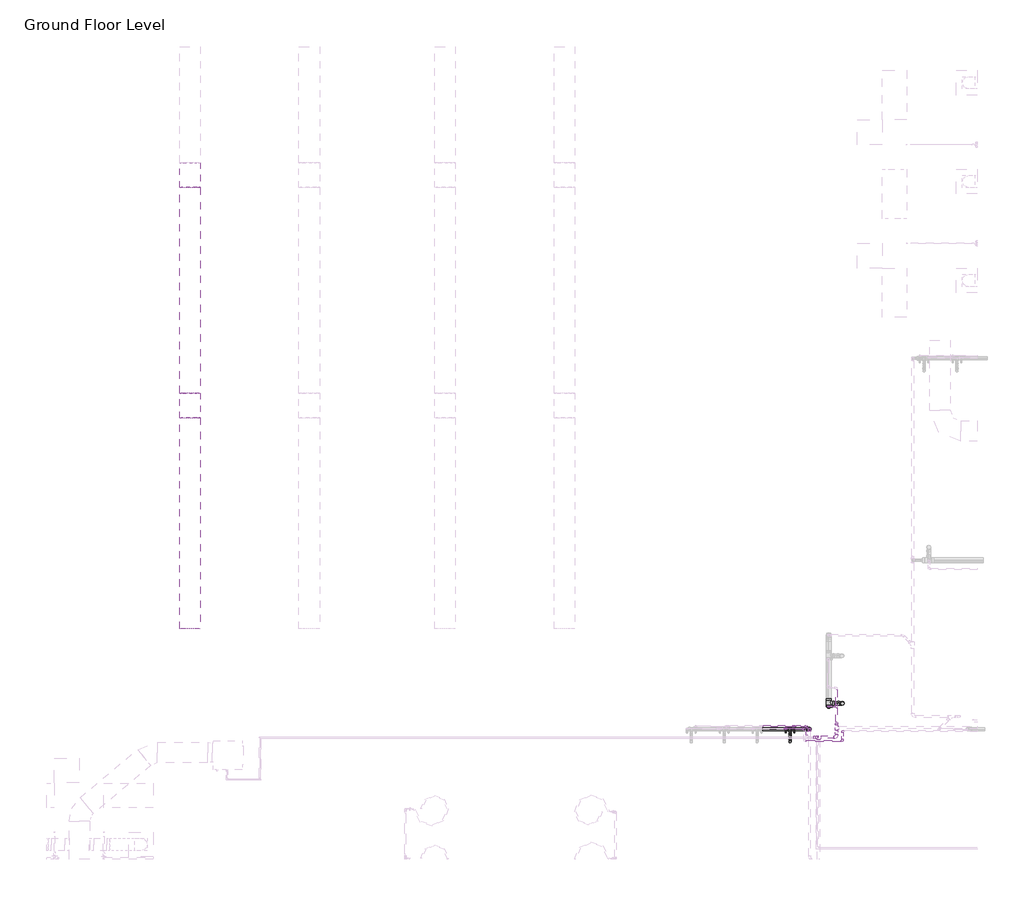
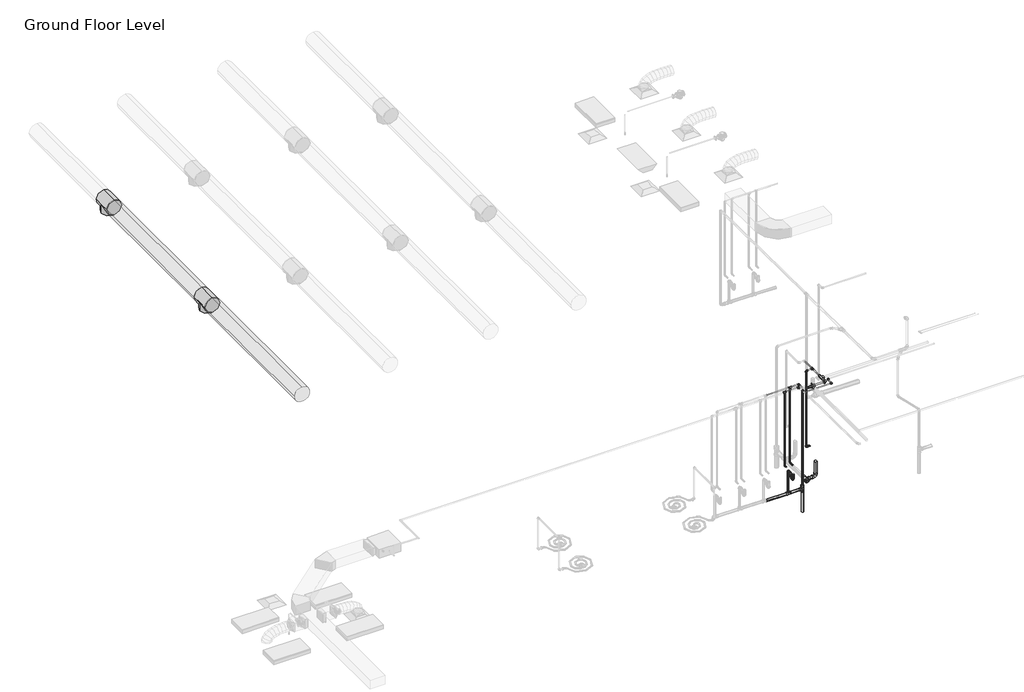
# One storey, part 8 of 74: 31 pipe fittings, 29 pipe segments, 2 duct fittings, 2 duct segments.
"""IFC4 building model written with IfcOpenShell, lengths in millimetres."""

from ifc_helpers import new_model, si_unit, point, frame, frame_2d, origin, place, context, project, spatial, circle_curve, trimmed, segment, composite_curve, outline, extrude, transform, mapped, element, save
from components import m_round_tee_standard_ed589d36, m_bend_pvc_sch_40_dwv_standard_a4b99d37, m_bend_pvc_sch_40_dwv_standard_1e7bdcc1, m_bend_pvc_sch_40_dwv_standard_776e50c4, m_bend_pvc_sch_40_dwv_standard_877aed9a, m_elbow_generic_standard_a088f956, m_elbow_generic_standard_2a704253, m_plug_pvc_sch_40_dwv_standard_6c40de1c, m_reducer_pvc_sch_40_dwv_standard_b84ad399, m_tee_reducing_sanitary_pvc_sch_40_dwv_standard_b49161a9, m_tee_reducing_sanitary_pvc_sch_40_dwv_standard_21d2848c, m_tee_reducing_sanitary_pvc_sch_40_dwv_standard_b574f8c1, standard_b266ab3f, standard_517a5a8d, standard_72b35c3b, standard_cd25fed3, standard_f1337950, standard_e954f56a, standard_57727813

model = new_model("IFC4")

# Units and contexts
model_context = context("Model", 3, world=origin())
ifc_project = project(units=[si_unit("LENGTHUNIT", "METRE", prefix="MILLI")], contexts=[model_context])

# Site, building, storey
site = spatial("IfcSite", under=ifc_project)
building = spatial("IfcBuilding", under=site)
storey = spatial("IfcBuildingStorey", under=building, Name="Ground Floor Level", Elevation=900.0)

# Duct fittings
placement = place(None, origin())
m_round_tee_standard_shape = m_round_tee_standard_ed589d36(model_context)
element("IfcDuctFitting", 1, ObjectType="M_Round Tee : Standard", at=placement, inside=storey, context=model_context, shape_type="MappedRepresentation", body=[
    mapped(m_round_tee_standard_shape, transform((-16150.3527512, -19404.784563, 7765.9063151), x_axis=(0.0, 0.9999999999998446, -5.576948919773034e-07), y_axis=(0.0, 5.576948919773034e-07, 0.9999999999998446), z_axis=(1.0, 0.0, 0.0))),
])
element("IfcDuctFitting", 2, ObjectType="M_Round Tee : Standard", at=placement, inside=storey, context=model_context, shape_type="MappedRepresentation", body=[
    mapped(m_round_tee_standard_shape, transform((-16150.3527512, -25004.784563, 7765.9094382), x_axis=(0.0, 0.9999999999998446, -5.576948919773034e-07), y_axis=(0.0, 5.576948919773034e-07, 0.9999999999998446), z_axis=(1.0, 0.0, 0.0))),
])

# Duct segments
element("IfcDuctSegment", 3, ObjectType="Tees", at=placement, inside=storey, context=model_context, shape_type="SweptSolid", body=[
    extrude(outline(composite_curve([segment(trimmed(circle_curve(frame_2d((7765.9092709, -16150.3527512)), 250.0), [point((7765.9092709, -15900.3527512))], [point((8015.9092709, -16150.3527512))], False, "CARTESIAN"), True, "CONTINUOUS"), segment(trimmed(circle_curve(frame_2d((7765.9092709, -16150.3527512)), 250.0), [point((8015.9092709, -16150.3527512))], [point((7765.9092709, -16400.3527512))], False, "CARTESIAN"), True, "CONTINUOUS"), segment(trimmed(circle_curve(frame_2d((7765.9092709, -16150.3527512)), 250.0), [point((7765.9092709, -16400.3527512))], [point((7515.9092709, -16150.3527512))], False, "CARTESIAN"), True, "CONTINUOUS"), segment(trimmed(circle_curve(frame_2d((7765.9092709, -16150.3527512)), 250.0), [point((7515.9092709, -16150.3527512))], [point((7765.9092709, -15900.3527512))], False, "CARTESIAN"), True, "CONTINUOUS")], self_intersect=False)), frame((0.0, -24704.784563, 0.0), z_axis=(0.0, 1.0, 0.0), x_axis=(0.0, 0.0, 1.0)), (0.0, 0.0, 1.0), 5000.0),
])
element("IfcDuctSegment", 4, ObjectType="Tees", at=placement, inside=storey, context=model_context, shape_type="SweptSolid", body=[
    extrude(outline(composite_curve([segment(trimmed(circle_curve(frame_2d((7765.9125, -16150.3527512)), 250.0), [point((7765.9125, -15900.3527512))], [point((8015.9125, -16150.3527512))], False, "CARTESIAN"), True, "CONTINUOUS"), segment(trimmed(circle_curve(frame_2d((7765.9125, -16150.3527512)), 250.0), [point((8015.9125, -16150.3527512))], [point((7765.9125, -16400.3527512))], False, "CARTESIAN"), True, "CONTINUOUS"), segment(trimmed(circle_curve(frame_2d((7765.9125, -16150.3527512)), 250.0), [point((7765.9125, -16400.3527512))], [point((7515.9125, -16150.3527512))], False, "CARTESIAN"), True, "CONTINUOUS"), segment(trimmed(circle_curve(frame_2d((7765.9125, -16150.3527512)), 250.0), [point((7515.9125, -16150.3527512))], [point((7765.9125, -15900.3527512))], False, "CARTESIAN"), True, "CONTINUOUS")], self_intersect=False)), frame((0.0, -30422.0587669, 0.0), z_axis=(0.0, 1.0, 0.0), x_axis=(0.0, 0.0, 1.0)), (0.0, 0.0, 1.0), 5117.2742039),
])

# Pipe fittings
m_bend_pvc_sch_40_dwv_standard_shape = m_bend_pvc_sch_40_dwv_standard_a4b99d37(model_context)
element("IfcPipeFitting", 5, ObjectType="M_Bend - PVC - Sch 40 - DWV : Standard", at=placement, inside=storey, context=model_context, shape_type="MappedRepresentation", body=[
    mapped(m_bend_pvc_sch_40_dwv_standard_shape, transform((-303.6900633, -32234.266625, 475.9254106), x_axis=(0.0, 0.0, -1.0), y_axis=(-1.0, 0.0, 0.0), z_axis=(0.0, 1.0, 0.0))),
])
m_bend_pvc_sch_40_dwv_standard_2_shape = m_bend_pvc_sch_40_dwv_standard_1e7bdcc1(model_context)
element("IfcPipeFitting", 6, ObjectType="M_Bend - PVC - Sch 40 - DWV : Standard", at=placement, inside=storey, context=model_context, shape_type="MappedRepresentation", body=[
    mapped(m_bend_pvc_sch_40_dwv_standard_2_shape, transform((-1573.215321, -32858.7119065, 1488.3035905), x_axis=(0.0, 0.9999500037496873, -0.009999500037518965), y_axis=(0.0, -0.009999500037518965, -0.9999500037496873), z_axis=(-1.0, 0.0, 0.0))),
])
element("IfcPipeFitting", 7, ObjectType="M_Bend - PVC - Sch 40 - DWV : Standard", at=placement, inside=storey, context=model_context, shape_type="MappedRepresentation", body=[
    mapped(m_bend_pvc_sch_40_dwv_standard_2_shape, transform((-1573.215321, -33168.3528578, 1345.0), x_axis=(0.0, -0.9999500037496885, 0.009999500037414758), y_axis=(0.0, 0.009999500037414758, 0.9999500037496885), z_axis=(-1.0, 0.0, 0.0))),
])
m_bend_pvc_sch_40_dwv_standard_3_shape = m_bend_pvc_sch_40_dwv_standard_776e50c4(model_context)
element("IfcPipeFitting", 8, ObjectType="M_Bend - PVC - Sch 40 - DWV : Standard", at=placement, inside=storey, context=model_context, shape_type="MappedRepresentation", body=[
    mapped(m_bend_pvc_sch_40_dwv_standard_3_shape, transform((-1573.215321, -33033.3528578, 1343.6), x_axis=(0.0, 0.9999500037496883, -0.009999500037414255), y_axis=(0.0, 0.009999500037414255, 0.9999500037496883), z_axis=(1.0, 0.0, 0.0))),
])
element("IfcPipeFitting", 9, ObjectType="M_Bend - PVC - Sch 40 - DWV : Standard", at=placement, inside=storey, context=model_context, shape_type="MappedRepresentation", body=[
    mapped(m_bend_pvc_sch_40_dwv_standard_3_shape, transform((-1573.215321, -33033.3528578, 1490.0), x_axis=(0.0, 0.0, 1.0), y_axis=(0.0, 1.0, 0.0), z_axis=(-1.0, 0.0, 0.0))),
])
m_bend_pvc_sch_40_dwv_standard_4_shape = m_bend_pvc_sch_40_dwv_standard_877aed9a(model_context)
element("IfcPipeFitting", 10, ObjectType="M_Bend - PVC - Sch 40 - DWV : Standard", at=placement, inside=storey, context=model_context, shape_type="MappedRepresentation", body=[
    mapped(m_bend_pvc_sch_40_dwv_standard_4_shape, transform((-1099.4034743, -32858.7119242, 4127.038), x_axis=(0.0, 0.0, 1.0), y_axis=(0.0, -1.0, 0.0), z_axis=(1.0, 0.0, 0.0))),
])
m_elbow_generic_standard_shape = m_elbow_generic_standard_a088f956(model_context)
element("IfcPipeFitting", 11, ObjectType="M_Elbow - Generic : Standard", at=placement, inside=storey, context=model_context, shape_type="MappedRepresentation", body=[
    mapped(m_elbow_generic_standard_shape, transform((-897.1048173, -33050.466218, 4390.0), x_axis=(0.0, 1.0, 0.0), y_axis=(-1.0, 0.0, 0.0), z_axis=(0.0, 0.0, 1.0))),
])
m_elbow_generic_standard_2_shape = m_elbow_generic_standard_2a704253(model_context)
element("IfcPipeFitting", 12, ObjectType="M_Elbow - Generic : Standard", at=placement, inside=storey, context=model_context, shape_type="MappedRepresentation", body=[
    mapped(m_elbow_generic_standard_2_shape, transform((-941.0095887, -33088.5402522, 4377.5), x_axis=(0.0, 1.0, 0.0), y_axis=(-1.0, 0.0, 0.0), z_axis=(0.0, 0.0, 1.0))),
])
m_plug_pvc_sch_40_dwv_standard_shape = m_plug_pvc_sch_40_dwv_standard_6c40de1c(model_context)
element("IfcPipeFitting", 13, ObjectType="M_Plug - PVC - Sch 40 - DWV : Standard", at=placement, inside=storey, context=model_context, shape_type="MappedRepresentation", body=[
    mapped(m_plug_pvc_sch_40_dwv_standard_shape, transform((-633.5600391, -32323.1621803, 476.8143661), x_axis=(0.0, -0.9999500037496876, 0.009999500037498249), y_axis=(1.0000000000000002, 0.0, 0.0), z_axis=(0.0, 0.009999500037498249, 0.9999500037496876))),
])
m_reducer_pvc_sch_40_dwv_standard_shape = m_reducer_pvc_sch_40_dwv_standard_b84ad399(model_context)
element("IfcPipeFitting", 14, ObjectType="M_Reducer - PVC - Sch 40 - DWV : Standard", at=placement, inside=storey, context=model_context, shape_type="MappedRepresentation", body=[
    mapped(m_reducer_pvc_sch_40_dwv_standard_shape, transform((-1099.4034743, -32858.6819272, 783.2824384), x_axis=(0.0, 0.0, 1.0), y_axis=(-1.0, 0.0, 0.0), z_axis=(0.0, -1.0, 0.0))),
])
m_tee_reducing_sanitary_pvc_sch_40_dwv_standard_shape = m_tee_reducing_sanitary_pvc_sch_40_dwv_standard_b49161a9(model_context)
element("IfcPipeFitting", 15, ObjectType="M_Tee Reducing Sanitary - PVC - Sch 40 - DWV : Standard", at=placement, inside=storey, context=model_context, shape_type="MappedRepresentation", body=[
    mapped(m_tee_reducing_sanitary_pvc_sch_40_dwv_standard_shape, transform((-633.5600391, -32234.266625, 475.9254106), x_axis=(0.0, -0.9999500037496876, 0.009999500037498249), y_axis=(-1.0000000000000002, 0.0, 0.0), z_axis=(0.0, -0.009999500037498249, -0.9999500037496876))),
])
m_tee_reducing_sanitary_pvc_sch_40_dwv_standard_2_shape = m_tee_reducing_sanitary_pvc_sch_40_dwv_standard_21d2848c(model_context)
element("IfcPipeFitting", 16, ObjectType="M_Tee Reducing Sanitary - PVC - Sch 40 - DWV : Standard", at=placement, inside=storey, context=model_context, shape_type="MappedRepresentation", body=[
    mapped(m_tee_reducing_sanitary_pvc_sch_40_dwv_standard_2_shape, transform((-1573.215321, -32858.7119065, 694.4349821), x_axis=(-0.9999500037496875, 0.0, 0.009999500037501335), y_axis=(-0.009999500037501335, 0.0, -0.9999500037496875), z_axis=(0.0, -1.0, 0.0))),
])
m_tee_reducing_sanitary_pvc_sch_40_dwv_standard_3_shape = m_tee_reducing_sanitary_pvc_sch_40_dwv_standard_b574f8c1(model_context)
element("IfcPipeFitting", 17, ObjectType="M_Tee Reducing Sanitary - PVC - Sch 40 - DWV : Standard", at=placement, inside=storey, context=model_context, shape_type="MappedRepresentation", body=[
    mapped(m_tee_reducing_sanitary_pvc_sch_40_dwv_standard_3_shape, transform((-1099.4034743, -32858.6819272, 689.7), x_axis=(0.0, 0.0, 1.0), y_axis=(1.0, 0.0, 0.0), z_axis=(0.0, 1.0, 0.0))),
])
standard_shape = standard_b266ab3f(model_context)
element("IfcPipeFitting", 18, ObjectType="M_Elbow - CPVC - Sch 40 : Standard", at=placement, inside=storey, context=model_context, shape_type="MappedRepresentation", body=[
    mapped(standard_shape, transform((-1468.9004005, -32789.6855451, 1690.0), x_axis=(0.0, 0.0, -1.0), y_axis=(0.0, -1.0, 0.0), z_axis=(-1.0, 0.0, 0.0))),
])
element("IfcPipeFitting", 19, ObjectType="M_Elbow - CPVC - Sch 40 : Standard", at=placement, inside=storey, context=model_context, shape_type="MappedRepresentation", body=[
    mapped(standard_shape, transform((-1677.5302417, -32850.870708, 1690.0), x_axis=(0.0, 0.0, -1.0), y_axis=(0.0, -1.0, 0.0), z_axis=(-1.0, 0.0, 0.0))),
])
standard_2_shape = standard_517a5a8d(model_context)
element("IfcPipeFitting", 20, ObjectType="M_Elbow - CPVC - Sch 40 : Standard", at=placement, inside=storey, context=model_context, shape_type="MappedRepresentation", body=[
    mapped(standard_2_shape, transform((-657.2327605, -32307.7053912, 1655.0), x_axis=(-1.0, 0.0, 0.0), y_axis=(0.0, 0.0, 1.0), z_axis=(0.0, 1.0, 0.0))),
])
element("IfcPipeFitting", 21, ObjectType="M_Elbow - CPVC - Sch 40 : Standard", at=placement, inside=storey, context=model_context, shape_type="MappedRepresentation", body=[
    mapped(standard_2_shape, transform((-657.2327605, -32307.7053912, 4300.0), x_axis=(0.0, 0.0, 1.0), y_axis=(1.0, 0.0, 0.0), z_axis=(0.0, 1.0, 0.0))),
])
element("IfcPipeFitting", 22, ObjectType="M_Elbow - CPVC - Sch 40 : Standard", at=placement, inside=storey, context=model_context, shape_type="MappedRepresentation", body=[
    mapped(standard_2_shape, transform((-1167.2327605, -32789.6855451, 4300.0), x_axis=(0.0, 1.0, 0.0), y_axis=(-1.0, 0.0, 0.0), z_axis=(0.0, 0.0, 1.0))),
])
element("IfcPipeFitting", 23, ObjectType="M_Elbow - CPVC - Sch 40 : Standard", at=placement, inside=storey, context=model_context, shape_type="MappedRepresentation", body=[
    mapped(standard_2_shape, transform((-299.4424198, -32905.870708, 4250.0), x_axis=(-1.0, 0.0, 0.0), y_axis=(0.0, -1.0, 0.0), z_axis=(0.0, 0.0, 1.0))),
])
element("IfcPipeFitting", 24, ObjectType="M_Elbow - CPVC - Sch 40 : Standard", at=placement, inside=storey, context=model_context, shape_type="MappedRepresentation", body=[
    mapped(standard_2_shape, transform((-299.4424198, -33150.870708, 4250.0), x_axis=(1.0, 0.0, 0.0), y_axis=(0.0, 1.0, 0.0), z_axis=(0.0, 0.0, 1.0))),
])
element("IfcPipeFitting", 25, ObjectType="M_Elbow - CPVC - Sch 40 : Standard", at=placement, inside=storey, context=model_context, shape_type="MappedRepresentation", body=[
    mapped(standard_2_shape, transform((-1219.9877664, -32850.870708, 4250.0), x_axis=(0.0, 1.0, 0.0), y_axis=(-1.0, 0.0, 0.0), z_axis=(0.0, 0.0, 1.0))),
])
standard_3_shape = standard_72b35c3b(model_context)
element("IfcPipeFitting", 26, ObjectType="M_Tee - CPVC - Sch 40 : Standard", at=placement, inside=storey, context=model_context, shape_type="MappedRepresentation", body=[
    mapped(standard_3_shape, transform((-447.2327605, -32307.7053912, 4300.0), x_axis=(0.0, 1.0, 0.0), y_axis=(1.0, 0.0, 0.0), z_axis=(0.0, 0.0, -1.0))),
])
element("IfcPipeFitting", 27, ObjectType="M_Tee - CPVC - Sch 40 : Standard", at=placement, inside=storey, context=model_context, shape_type="MappedRepresentation", body=[
    mapped(standard_3_shape, transform((-1468.9004005, -32789.6855451, 4300.0), x_axis=(1.0, 0.0, 0.0), y_axis=(0.0, 0.0, 1.0), z_axis=(0.0, -1.0, 0.0))),
])
element("IfcPipeFitting", 28, ObjectType="M_Tee - CPVC - Sch 40 : Standard", at=placement, inside=storey, context=model_context, shape_type="MappedRepresentation", body=[
    mapped(standard_3_shape, transform((-1677.5302417, -32850.870708, 4250.0), x_axis=(1.0, 0.0, 0.0), y_axis=(0.0, 0.0, 1.0), z_axis=(0.0, -1.0, 0.0))),
])
standard_4_shape = standard_cd25fed3(model_context)
element("IfcPipeFitting", 29, ObjectType="M_Tee - CPVC - Sch 40 : Standard", at=placement, inside=storey, context=model_context, shape_type="MappedRepresentation", body=[
    mapped(standard_4_shape, transform((-447.2327605, -32824.9853451, 4300.0), x_axis=(0.0, -1.0, 0.0), y_axis=(-1.0, 0.0, 0.0), z_axis=(0.0, 0.0, -1.0))),
])
element("IfcPipeFitting", 30, ObjectType="M_Tee - CPVC - Sch 40 : Standard", at=placement, inside=storey, context=model_context, shape_type="MappedRepresentation", body=[
    mapped(standard_4_shape, transform((-881.5205995, -33054.6855451, 4300.0), x_axis=(1.0, 0.0, 0.0), y_axis=(0.0, 1.0, 0.0), z_axis=(0.0, 0.0, 1.0))),
])
standard_5_shape = standard_f1337950(model_context)
element("IfcPipeFitting", 31, ObjectType="M_Coupling Reducing - CPVC - Sch 40 : Standard", at=placement, inside=storey, context=model_context, shape_type="MappedRepresentation", body=[
    mapped(standard_5_shape, transform((-948.1955995, -33054.6855451, 4300.0), x_axis=(-1.0, 0.0, 0.0), y_axis=(0.0, -1.0, 0.0), z_axis=(0.0, 0.0, 1.0))),
])
element("IfcPipeFitting", 32, ObjectType="M_Coupling Reducing - CPVC - Sch 40 : Standard", at=placement, inside=storey, context=model_context, shape_type="MappedRepresentation", body=[
    mapped(standard_5_shape, transform((-447.2327605, -32758.3103451, 4300.0), x_axis=(0.0, 1.0, 0.0), y_axis=(-1.0, 0.0, 0.0), z_axis=(0.0, 0.0, 1.0))),
])
standard_6_shape = standard_e954f56a(model_context)
element("IfcPipeFitting", 33, ObjectType="M_Coupling Reducing - CPVC - Sch 40 : Standard", at=placement, inside=storey, context=model_context, shape_type="MappedRepresentation", body=[
    mapped(standard_6_shape, transform((-1468.9004005, -32789.6855451, 4260.2998), x_axis=(0.0, 0.0, -1.0), y_axis=(1.0, 0.0, 0.0), z_axis=(0.0, -1.0, 0.0))),
])
element("IfcPipeFitting", 34, ObjectType="M_Coupling Reducing - CPVC - Sch 40 : Standard", at=placement, inside=storey, context=model_context, shape_type="MappedRepresentation", body=[
    mapped(standard_6_shape, transform((-1677.5302417, -32850.870708, 4210.2998), x_axis=(0.0, 0.0, -1.0), y_axis=(1.0, 0.0, 0.0), z_axis=(0.0, -1.0, 0.0))),
])
standard_7_shape = standard_57727813(model_context)
element("IfcPipeFitting", 35, ObjectType="M_Elbow - CPVC - Sch 40 : Standard", at=placement, inside=storey, context=model_context, shape_type="MappedRepresentation", body=[
    mapped(standard_7_shape, transform((-447.2327605, -33054.6855451, 4300.0), x_axis=(1.0, 0.0, 0.0), y_axis=(0.0, 1.0, 0.0), z_axis=(0.0, 0.0, 1.0))),
])

# Pipe segments
element("IfcPipeSegment", 36, ObjectType="CPVC", at=placement, inside=storey, context=model_context, shape_type="SweptSolid", body=[
    extrude(outline(composite_curve([segment(trimmed(circle_curve(frame_2d((4300.0, -447.2327605)), 16.7005), [point((4300.0, -463.9332605))], [point((4283.2995, -447.2327605))], False, "CARTESIAN"), True, "CONTINUOUS"), segment(trimmed(circle_curve(frame_2d((4300.0, -447.2327605)), 16.7005), [point((4283.2995, -447.2327605))], [point((4300.0, -430.5322605))], False, "CARTESIAN"), True, "CONTINUOUS"), segment(trimmed(circle_curve(frame_2d((4300.0, -447.2327605)), 16.7005), [point((4300.0, -430.5322605))], [point((4316.7005, -447.2327605))], False, "CARTESIAN"), True, "CONTINUOUS"), segment(trimmed(circle_curve(frame_2d((4300.0, -447.2327605)), 16.7005), [point((4316.7005, -447.2327605))], [point((4300.0, -463.9332605))], False, "CARTESIAN"), True, "CONTINUOUS")], self_intersect=False)), frame((0.0, -32678.5114701, 0.0), z_axis=(0.0, 1.0, 0.0), x_axis=(0.0, 0.0, 1.0)), (0.0, 0.0, 1.0), 331.1058789),
])
element("IfcPipeSegment", 37, ObjectType="CPVC", at=placement, inside=storey, context=model_context, shape_type="SweptSolid", body=[
    extrude(outline(composite_curve([segment(trimmed(circle_curve(frame_2d((-32307.7053912, 1655.0)), 16.7005), [point((-32291.0048912, 1655.0))], [point((-32307.7053912, 1638.2995))], False, "CARTESIAN"), True, "CONTINUOUS"), segment(trimmed(circle_curve(frame_2d((-32307.7053912, 1655.0)), 16.7005), [point((-32307.7053912, 1638.2995))], [point((-32324.4058912, 1655.0))], False, "CARTESIAN"), True, "CONTINUOUS"), segment(trimmed(circle_curve(frame_2d((-32307.7053912, 1655.0)), 16.7005), [point((-32324.4058912, 1655.0))], [point((-32307.7053912, 1671.7005))], False, "CARTESIAN"), True, "CONTINUOUS"), segment(trimmed(circle_curve(frame_2d((-32307.7053912, 1655.0)), 16.7005), [point((-32307.7053912, 1671.7005))], [point((-32291.0048912, 1655.0))], False, "CARTESIAN"), True, "CONTINUOUS")], self_intersect=False)), frame((-613.9702105, 0.0, 0.0), z_axis=(1.0, 0.0, 0.0), x_axis=(0.0, 1.0, 0.0)), (0.0, 0.0, 1.0), 76.73745),
])
element("IfcPipeSegment", 38, ObjectType="CPVC", at=placement, inside=storey, context=model_context, shape_type="SweptSolid", body=[
    extrude(outline(composite_curve([segment(trimmed(circle_curve(frame_2d((-32307.7053912, 4300.0)), 16.7005), [point((-32291.0048912, 4300.0))], [point((-32307.7053912, 4283.2995))], False, "CARTESIAN"), True, "CONTINUOUS"), segment(trimmed(circle_curve(frame_2d((-32307.7053912, 4300.0)), 16.7005), [point((-32307.7053912, 4283.2995))], [point((-32324.4058912, 4300.0))], False, "CARTESIAN"), True, "CONTINUOUS"), segment(trimmed(circle_curve(frame_2d((-32307.7053912, 4300.0)), 16.7005), [point((-32324.4058912, 4300.0))], [point((-32307.7053912, 4316.7005))], False, "CARTESIAN"), True, "CONTINUOUS"), segment(trimmed(circle_curve(frame_2d((-32307.7053912, 4300.0)), 16.7005), [point((-32307.7053912, 4316.7005))], [point((-32291.0048912, 4300.0))], False, "CARTESIAN"), True, "CONTINUOUS")], self_intersect=False)), frame((-613.9702105, 0.0, 0.0), z_axis=(1.0, 0.0, 0.0), x_axis=(0.0, 1.0, 0.0)), (0.0, 0.0, 1.0), 127.03725),
])
element("IfcPipeSegment", 39, ObjectType="CPVC", at=placement, inside=storey, context=model_context, shape_type="SweptSolid", body=[
    extrude(outline(composite_curve([segment(trimmed(circle_curve(frame_2d((-657.2327605, -32307.7053912)), 16.7005), [point((-673.9332605, -32307.7053912))], [point((-657.2327605, -32291.0048912))], False, "CARTESIAN"), True, "CONTINUOUS"), segment(trimmed(circle_curve(frame_2d((-657.2327605, -32307.7053912)), 16.7005), [point((-657.2327605, -32291.0048912))], [point((-640.5322605, -32307.7053912))], False, "CARTESIAN"), True, "CONTINUOUS"), segment(trimmed(circle_curve(frame_2d((-657.2327605, -32307.7053912)), 16.7005), [point((-640.5322605, -32307.7053912))], [point((-657.2327605, -32324.4058912))], False, "CARTESIAN"), True, "CONTINUOUS"), segment(trimmed(circle_curve(frame_2d((-657.2327605, -32307.7053912)), 16.7005), [point((-657.2327605, -32324.4058912))], [point((-673.9332605, -32307.7053912))], False, "CARTESIAN"), True, "CONTINUOUS")], self_intersect=False)), frame((0.0, 0.0, 1698.26255), z_axis=(0.0, 0.0, 1.0), x_axis=(1.0, 0.0, 0.0)), (0.0, 0.0, 1.0), 2558.4749),
])
element("IfcPipeSegment", 40, ObjectType="CPVC", at=placement, inside=storey, context=model_context, shape_type="SweptSolid", body=[
    extrude(outline(composite_curve([segment(trimmed(circle_curve(frame_2d((4300.0, -447.2327605)), 16.7005), [point((4300.0, -463.9332605))], [point((4283.2995, -447.2327605))], False, "CARTESIAN"), True, "CONTINUOUS"), segment(trimmed(circle_curve(frame_2d((4300.0, -447.2327605)), 16.7005), [point((4283.2995, -447.2327605))], [point((4300.0, -430.5322605))], False, "CARTESIAN"), True, "CONTINUOUS"), segment(trimmed(circle_curve(frame_2d((4300.0, -447.2327605)), 16.7005), [point((4300.0, -430.5322605))], [point((4316.7005, -447.2327605))], False, "CARTESIAN"), True, "CONTINUOUS"), segment(trimmed(circle_curve(frame_2d((4300.0, -447.2327605)), 16.7005), [point((4316.7005, -447.2327605))], [point((4300.0, -463.9332605))], False, "CARTESIAN"), True, "CONTINUOUS")], self_intersect=False)), frame((0.0, -32268.0051912, 0.0), z_axis=(0.0, 1.0, 0.0), x_axis=(0.0, 0.0, 1.0)), (0.0, 0.0, 1.0), 369.7572961),
])
element("IfcPipeSegment", 41, ObjectType="CPVC", at=placement, inside=storey, context=model_context, shape_type="SweptSolid", body=[
    extrude(outline(composite_curve([segment(trimmed(circle_curve(frame_2d((4300.0, -447.2327605)), 30.1625), [point((4300.0, -477.3952605))], [point((4269.8375, -447.2327605))], False, "CARTESIAN"), True, "CONTINUOUS"), segment(trimmed(circle_curve(frame_2d((4300.0, -447.2327605)), 30.1625), [point((4269.8375, -447.2327605))], [point((4300.0, -417.0702605))], False, "CARTESIAN"), True, "CONTINUOUS"), segment(trimmed(circle_curve(frame_2d((4300.0, -447.2327605)), 30.1625), [point((4300.0, -417.0702605))], [point((4330.1625, -447.2327605))], False, "CARTESIAN"), True, "CONTINUOUS"), segment(trimmed(circle_curve(frame_2d((4300.0, -447.2327605)), 30.1625), [point((4330.1625, -447.2327605))], [point((4300.0, -477.3952605))], False, "CARTESIAN"), True, "CONTINUOUS")], self_intersect=False)), frame((0.0, -32990.3917951, 0.0), z_axis=(0.0, 1.0, 0.0), x_axis=(0.0, 0.0, 1.0)), (0.0, 0.0, 1.0), 98.73145),
])
element("IfcPipeSegment", 42, ObjectType="CPVC", at=placement, inside=storey, context=model_context, shape_type="SweptSolid", body=[
    extrude(outline(composite_curve([segment(trimmed(circle_curve(frame_2d((4300.0, -1167.2327605)), 16.7005), [point((4300.0, -1150.5322605))], [point((4316.7005, -1167.2327605))], False, "CARTESIAN"), True, "CONTINUOUS"), segment(trimmed(circle_curve(frame_2d((4300.0, -1167.2327605)), 16.7005), [point((4316.7005, -1167.2327605))], [point((4300.0, -1183.9332605))], False, "CARTESIAN"), True, "CONTINUOUS"), segment(trimmed(circle_curve(frame_2d((4300.0, -1167.2327605)), 16.7005), [point((4300.0, -1183.9332605))], [point((4283.2995, -1167.2327605))], False, "CARTESIAN"), True, "CONTINUOUS"), segment(trimmed(circle_curve(frame_2d((4300.0, -1167.2327605)), 16.7005), [point((4283.2995, -1167.2327605))], [point((4300.0, -1150.5322605))], False, "CARTESIAN"), True, "CONTINUOUS")], self_intersect=False)), frame((0.0, -33011.4229951, 0.0), z_axis=(0.0, 1.0, 0.0), x_axis=(0.0, 0.0, 1.0)), (0.0, 0.0, 1.0), 178.4749),
])
element("IfcPipeSegment", 43, ObjectType="CPVC", at=placement, inside=storey, context=model_context, shape_type="SweptSolid", body=[
    extrude(outline(composite_curve([segment(trimmed(circle_curve(frame_2d((1690.0, -1468.9004005)), 13.335), [point((1690.0, -1482.2354005))], [point((1676.665, -1468.9004005))], False, "CARTESIAN"), True, "CONTINUOUS"), segment(trimmed(circle_curve(frame_2d((1690.0, -1468.9004005)), 13.335), [point((1676.665, -1468.9004005))], [point((1690.0, -1455.5654005))], False, "CARTESIAN"), True, "CONTINUOUS"), segment(trimmed(circle_curve(frame_2d((1690.0, -1468.9004005)), 13.335), [point((1690.0, -1455.5654005))], [point((1703.335, -1468.9004005))], False, "CARTESIAN"), True, "CONTINUOUS"), segment(trimmed(circle_curve(frame_2d((1690.0, -1468.9004005)), 13.335), [point((1703.335, -1468.9004005))], [point((1690.0, -1482.2354005))], False, "CARTESIAN"), True, "CONTINUOUS")], self_intersect=False)), frame((0.0, -32944.7846466, 0.0), z_axis=(0.0, 1.0, 0.0), x_axis=(0.0, 0.0, 1.0)), (0.0, 0.0, 1.0), 119.7740515),
])
element("IfcPipeSegment", 44, ObjectType="CPVC", at=placement, inside=storey, context=model_context, shape_type="SweptSolid", body=[
    extrude(outline(composite_curve([segment(trimmed(circle_curve(frame_2d((-1468.9004005, -32789.6855451)), 13.335), [point((-1455.5654005, -32789.6855451))], [point((-1468.9004005, -32803.0205451))], False, "CARTESIAN"), True, "CONTINUOUS"), segment(trimmed(circle_curve(frame_2d((-1468.9004005, -32789.6855451)), 13.335), [point((-1468.9004005, -32803.0205451))], [point((-1482.2354005, -32789.6855451))], False, "CARTESIAN"), True, "CONTINUOUS"), segment(trimmed(circle_curve(frame_2d((-1468.9004005, -32789.6855451)), 13.335), [point((-1482.2354005, -32789.6855451))], [point((-1468.9004005, -32776.3505451))], False, "CARTESIAN"), True, "CONTINUOUS"), segment(trimmed(circle_curve(frame_2d((-1468.9004005, -32789.6855451)), 13.335), [point((-1468.9004005, -32776.3505451))], [point((-1455.5654005, -32789.6855451))], False, "CARTESIAN"), True, "CONTINUOUS")], self_intersect=False)), frame((0.0, 0.0, 1725.32505), z_axis=(0.0, 0.0, 1.0), x_axis=(1.0, 0.0, 0.0)), (0.0, 0.0, 1.0), 2477.82475),
])
element("IfcPipeSegment", 45, ObjectType="CPVC", at=placement, inside=storey, context=model_context, shape_type="SweptSolid", body=[
    extrude(outline(composite_curve([segment(trimmed(circle_curve(frame_2d((-32789.6855451, 4300.0)), 16.7005), [point((-32772.9850451, 4300.0))], [point((-32789.6855451, 4283.2995))], False, "CARTESIAN"), True, "CONTINUOUS"), segment(trimmed(circle_curve(frame_2d((-32789.6855451, 4300.0)), 16.7005), [point((-32789.6855451, 4283.2995))], [point((-32806.3860451, 4300.0))], False, "CARTESIAN"), True, "CONTINUOUS"), segment(trimmed(circle_curve(frame_2d((-32789.6855451, 4300.0)), 16.7005), [point((-32806.3860451, 4300.0))], [point((-32789.6855451, 4316.7005))], False, "CARTESIAN"), True, "CONTINUOUS"), segment(trimmed(circle_curve(frame_2d((-32789.6855451, 4300.0)), 16.7005), [point((-32789.6855451, 4316.7005))], [point((-32772.9850451, 4300.0))], False, "CARTESIAN"), True, "CONTINUOUS")], self_intersect=False)), frame((-1429.2002005, 0.0, 0.0), z_axis=(1.0, 0.0, 0.0), x_axis=(0.0, 1.0, 0.0)), (0.0, 0.0, 1.0), 218.70489),
])
element("IfcPipeSegment", 46, ObjectType="CPVC", at=placement, inside=storey, context=model_context, shape_type="SweptSolid", body=[
    extrude(outline(composite_curve([segment(trimmed(circle_curve(frame_2d((-32789.6855451, 4300.0)), 16.7005), [point((-32772.9850451, 4300.0))], [point((-32789.6855451, 4283.2995))], False, "CARTESIAN"), True, "CONTINUOUS"), segment(trimmed(circle_curve(frame_2d((-32789.6855451, 4300.0)), 16.7005), [point((-32789.6855451, 4283.2995))], [point((-32806.3860451, 4300.0))], False, "CARTESIAN"), True, "CONTINUOUS"), segment(trimmed(circle_curve(frame_2d((-32789.6855451, 4300.0)), 16.7005), [point((-32806.3860451, 4300.0))], [point((-32789.6855451, 4316.7005))], False, "CARTESIAN"), True, "CONTINUOUS"), segment(trimmed(circle_curve(frame_2d((-32789.6855451, 4300.0)), 16.7005), [point((-32789.6855451, 4316.7005))], [point((-32772.9850451, 4300.0))], False, "CARTESIAN"), True, "CONTINUOUS")], self_intersect=False)), frame((-2229.2002005, 0.0, 0.0), z_axis=(1.0, 0.0, 0.0), x_axis=(0.0, 1.0, 0.0)), (0.0, 0.0, 1.0), 720.5996),
])
element("IfcPipeSegment", 47, ObjectType="CPVC", at=placement, inside=storey, context=model_context, shape_type="SweptSolid", body=[
    extrude(outline(composite_curve([segment(trimmed(circle_curve(frame_2d((-33054.6855451, 4300.0)), 30.1625), [point((-33024.5230451, 4300.0))], [point((-33054.6855451, 4269.8375))], False, "CARTESIAN"), True, "CONTINUOUS"), segment(trimmed(circle_curve(frame_2d((-33054.6855451, 4300.0)), 30.1625), [point((-33054.6855451, 4269.8375))], [point((-33084.8480451, 4300.0))], False, "CARTESIAN"), True, "CONTINUOUS"), segment(trimmed(circle_curve(frame_2d((-33054.6855451, 4300.0)), 30.1625), [point((-33084.8480451, 4300.0))], [point((-33054.6855451, 4330.1625))], False, "CARTESIAN"), True, "CONTINUOUS"), segment(trimmed(circle_curve(frame_2d((-33054.6855451, 4300.0)), 30.1625), [point((-33054.6855451, 4330.1625))], [point((-33024.5230451, 4300.0))], False, "CARTESIAN"), True, "CONTINUOUS")], self_intersect=False)), frame((-814.8455995, 0.0, 0.0), z_axis=(1.0, 0.0, 0.0), x_axis=(0.0, 1.0, 0.0)), (0.0, 0.0, 1.0), 303.319089),
])
element("IfcPipeSegment", 48, ObjectType="CPVC", at=placement, inside=storey, context=model_context, shape_type="SweptSolid", body=[
    extrude(outline(composite_curve([segment(trimmed(circle_curve(frame_2d((4250.0, -299.4424198)), 16.7005), [point((4250.0, -316.1429198))], [point((4233.2995, -299.4424198))], False, "CARTESIAN"), True, "CONTINUOUS"), segment(trimmed(circle_curve(frame_2d((4250.0, -299.4424198)), 16.7005), [point((4233.2995, -299.4424198))], [point((4250.0, -282.7419198))], False, "CARTESIAN"), True, "CONTINUOUS"), segment(trimmed(circle_curve(frame_2d((4250.0, -299.4424198)), 16.7005), [point((4250.0, -282.7419198))], [point((4266.7005, -299.4424198))], False, "CARTESIAN"), True, "CONTINUOUS"), segment(trimmed(circle_curve(frame_2d((4250.0, -299.4424198)), 16.7005), [point((4266.7005, -299.4424198))], [point((4250.0, -316.1429198))], False, "CARTESIAN"), True, "CONTINUOUS")], self_intersect=False)), frame((0.0, -33107.608158, 0.0), z_axis=(0.0, 1.0, 0.0), x_axis=(0.0, 0.0, 1.0)), (0.0, 0.0, 1.0), 158.4749),
])
element("IfcPipeSegment", 49, ObjectType="CPVC", at=placement, inside=storey, context=model_context, shape_type="SweptSolid", body=[
    extrude(outline(composite_curve([segment(trimmed(circle_curve(frame_2d((-33150.870708, 4250.0)), 16.7005), [point((-33134.170208, 4250.0))], [point((-33150.870708, 4233.2995))], False, "CARTESIAN"), True, "CONTINUOUS"), segment(trimmed(circle_curve(frame_2d((-33150.870708, 4250.0)), 16.7005), [point((-33150.870708, 4233.2995))], [point((-33167.571208, 4250.0))], False, "CARTESIAN"), True, "CONTINUOUS"), segment(trimmed(circle_curve(frame_2d((-33150.870708, 4250.0)), 16.7005), [point((-33167.571208, 4250.0))], [point((-33150.870708, 4266.7005))], False, "CARTESIAN"), True, "CONTINUOUS"), segment(trimmed(circle_curve(frame_2d((-33150.870708, 4250.0)), 16.7005), [point((-33150.870708, 4266.7005))], [point((-33134.170208, 4250.0))], False, "CARTESIAN"), True, "CONTINUOUS")], self_intersect=False)), frame((-1176.7252164, 0.0, 0.0), z_axis=(1.0, 0.0, 0.0), x_axis=(0.0, 1.0, 0.0)), (0.0, 0.0, 1.0), 834.0202466),
])
element("IfcPipeSegment", 50, ObjectType="CPVC", at=placement, inside=storey, context=model_context, shape_type="SweptSolid", body=[
    extrude(outline(composite_curve([segment(trimmed(circle_curve(frame_2d((1690.0, -1677.5302417)), 13.335), [point((1690.0, -1690.8652417))], [point((1676.665, -1677.5302417))], False, "CARTESIAN"), True, "CONTINUOUS"), segment(trimmed(circle_curve(frame_2d((1690.0, -1677.5302417)), 13.335), [point((1676.665, -1677.5302417))], [point((1690.0, -1664.1952417))], False, "CARTESIAN"), True, "CONTINUOUS"), segment(trimmed(circle_curve(frame_2d((1690.0, -1677.5302417)), 13.335), [point((1690.0, -1664.1952417))], [point((1703.335, -1677.5302417))], False, "CARTESIAN"), True, "CONTINUOUS"), segment(trimmed(circle_curve(frame_2d((1690.0, -1677.5302417)), 13.335), [point((1703.335, -1677.5302417))], [point((1690.0, -1690.8652417))], False, "CARTESIAN"), True, "CONTINUOUS")], self_intersect=False)), frame((0.0, -32944.7846466, 0.0), z_axis=(0.0, 1.0, 0.0), x_axis=(0.0, 0.0, 1.0)), (0.0, 0.0, 1.0), 58.5888886),
])
element("IfcPipeSegment", 51, ObjectType="CPVC", at=placement, inside=storey, context=model_context, shape_type="SweptSolid", body=[
    extrude(outline(composite_curve([segment(trimmed(circle_curve(frame_2d((-1677.5302417, -32850.870708)), 13.335), [point((-1664.1952417, -32850.870708))], [point((-1677.5302417, -32864.205708))], False, "CARTESIAN"), True, "CONTINUOUS"), segment(trimmed(circle_curve(frame_2d((-1677.5302417, -32850.870708)), 13.335), [point((-1677.5302417, -32864.205708))], [point((-1690.8652417, -32850.870708))], False, "CARTESIAN"), True, "CONTINUOUS"), segment(trimmed(circle_curve(frame_2d((-1677.5302417, -32850.870708)), 13.335), [point((-1690.8652417, -32850.870708))], [point((-1677.5302417, -32837.535708))], False, "CARTESIAN"), True, "CONTINUOUS"), segment(trimmed(circle_curve(frame_2d((-1677.5302417, -32850.870708)), 13.335), [point((-1677.5302417, -32837.535708))], [point((-1664.1952417, -32850.870708))], False, "CARTESIAN"), True, "CONTINUOUS")], self_intersect=False)), frame((0.0, 0.0, 1725.32505), z_axis=(0.0, 0.0, 1.0), x_axis=(1.0, 0.0, 0.0)), (0.0, 0.0, 1.0), 2427.82475),
])
element("IfcPipeSegment", 52, ObjectType="CPVC", at=placement, inside=storey, context=model_context, shape_type="SweptSolid", body=[
    extrude(outline(composite_curve([segment(trimmed(circle_curve(frame_2d((-32850.870708, 4250.0)), 16.7005), [point((-32834.170208, 4250.0))], [point((-32850.870708, 4233.2995))], False, "CARTESIAN"), True, "CONTINUOUS"), segment(trimmed(circle_curve(frame_2d((-32850.870708, 4250.0)), 16.7005), [point((-32850.870708, 4233.2995))], [point((-32867.571208, 4250.0))], False, "CARTESIAN"), True, "CONTINUOUS"), segment(trimmed(circle_curve(frame_2d((-32850.870708, 4250.0)), 16.7005), [point((-32867.571208, 4250.0))], [point((-32850.870708, 4266.7005))], False, "CARTESIAN"), True, "CONTINUOUS"), segment(trimmed(circle_curve(frame_2d((-32850.870708, 4250.0)), 16.7005), [point((-32850.870708, 4266.7005))], [point((-32834.170208, 4250.0))], False, "CARTESIAN"), True, "CONTINUOUS")], self_intersect=False)), frame((-1637.8300417, 0.0, 0.0), z_axis=(1.0, 0.0, 0.0), x_axis=(0.0, 1.0, 0.0)), (0.0, 0.0, 1.0), 374.5797253),
])
element("IfcPipeSegment", 53, ObjectType="PVC - DWV", at=placement, inside=storey, context=model_context, shape_type="SweptSolid", body=[
    extrude(outline(composite_curve([segment(trimmed(circle_curve(frame_2d((-303.6900633, -32234.266625)), 44.45), [point((-259.2400633, -32234.266625))], [point((-303.6900633, -32278.716625))], False, "CARTESIAN"), True, "CONTINUOUS"), segment(trimmed(circle_curve(frame_2d((-303.6900633, -32234.266625)), 44.45), [point((-303.6900633, -32278.716625))], [point((-348.1400633, -32234.266625))], False, "CARTESIAN"), True, "CONTINUOUS"), segment(trimmed(circle_curve(frame_2d((-303.6900633, -32234.266625)), 44.45), [point((-348.1400633, -32234.266625))], [point((-303.6900633, -32189.816625))], False, "CARTESIAN"), True, "CONTINUOUS"), segment(trimmed(circle_curve(frame_2d((-303.6900633, -32234.266625)), 44.45), [point((-303.6900633, -32189.816625))], [point((-259.2400633, -32234.266625))], False, "CARTESIAN"), True, "CONTINUOUS")], self_intersect=False)), frame((0.0, 0.0, 591.8256106), z_axis=(0.0, 0.0, 1.0), x_axis=(1.0, 0.0, 0.0)), (0.0, 0.0, 1.0), 398.1743894),
])
element("IfcPipeSegment", 54, ObjectType="PVC - DWV", at=placement, inside=storey, context=model_context, shape_type="SweptSolid", body=[
    extrude(outline(composite_curve([segment(trimmed(circle_curve(frame_2d((-32234.266625, 475.9254106)), 44.45), [point((-32189.816625, 475.9254106))], [point((-32234.266625, 431.4754106))], False, "CARTESIAN"), True, "CONTINUOUS"), segment(trimmed(circle_curve(frame_2d((-32234.266625, 475.9254106)), 44.45), [point((-32234.266625, 431.4754106))], [point((-32278.716625, 475.9254106))], False, "CARTESIAN"), True, "CONTINUOUS"), segment(trimmed(circle_curve(frame_2d((-32234.266625, 475.9254106)), 44.45), [point((-32278.716625, 475.9254106))], [point((-32234.266625, 520.3754106))], False, "CARTESIAN"), True, "CONTINUOUS"), segment(trimmed(circle_curve(frame_2d((-32234.266625, 475.9254106)), 44.45), [point((-32234.266625, 520.3754106))], [point((-32189.816625, 475.9254106))], False, "CARTESIAN"), True, "CONTINUOUS")], self_intersect=False)), frame((-504.9598391, 0.0, 0.0), z_axis=(1.0, 0.0, 0.0), x_axis=(0.0, 1.0, 0.0)), (0.0, 0.0, 1.0), 85.3695759),
])
element("IfcPipeSegment", 55, ObjectType="PVC - DWV", at=placement, inside=storey, context=model_context, shape_type="SweptSolid", body=[
    extrude(outline(composite_curve([segment(trimmed(circle_curve(frame_2d((0.0, -36.5125)), 36.5125), [point((0.3717178, -73.0231078))], [point((-36.5106078, -36.8842178))], False, "CARTESIAN"), True, "CONTINUOUS"), segment(trimmed(circle_curve(frame_2d((0.0, -36.5125)), 36.5125), [point((-36.5106078, -36.8842178))], [point((-0.3717177, -0.0018922))], False, "CARTESIAN"), True, "CONTINUOUS"), segment(trimmed(circle_curve(frame_2d((0.0, -36.5125)), 36.5125), [point((-0.3717177, -0.0018922))], [point((36.5106078, -36.1407822))], False, "CARTESIAN"), True, "CONTINUOUS"), segment(trimmed(circle_curve(frame_2d((0.0, -36.5125)), 36.5125), [point((36.5106078, -36.1407822))], [point((0.3717178, -73.0231078))], False, "CARTESIAN"), True, "CONTINUOUS")], self_intersect=False)), frame((-1199.366445, -32822.1713192, 691.0713289), z_axis=(-0.999950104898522, -0.00010169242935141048, 0.009988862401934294), x_axis=(0.009989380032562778, -0.010179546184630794, 0.999898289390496)), (0.0, 0.0, 1.0), 294.8044195),
])
element("IfcPipeSegment", 56, ObjectType="PVC - DWV", at=placement, inside=storey, context=model_context, shape_type="SweptSolid", body=[
    extrude(outline(composite_curve([segment(trimmed(circle_curve(frame_2d((-1573.215321, -33168.3528578)), 24.13), [point((-1597.345321, -33168.3528578))], [point((-1573.215321, -33144.2228578))], False, "CARTESIAN"), True, "CONTINUOUS"), segment(trimmed(circle_curve(frame_2d((-1573.215321, -33168.3528578)), 24.13), [point((-1573.215321, -33144.2228578))], [point((-1549.085321, -33168.3528578))], False, "CARTESIAN"), True, "CONTINUOUS"), segment(trimmed(circle_curve(frame_2d((-1573.215321, -33168.3528578)), 24.13), [point((-1549.085321, -33168.3528578))], [point((-1573.215321, -33192.4828578))], False, "CARTESIAN"), True, "CONTINUOUS"), segment(trimmed(circle_curve(frame_2d((-1573.215321, -33168.3528578)), 24.13), [point((-1573.215321, -33192.4828578))], [point((-1597.345321, -33168.3528578))], False, "CARTESIAN"), True, "CONTINUOUS")], self_intersect=False)), frame((0.0, 0.0, 1406.8998), z_axis=(0.0, 0.0, 1.0), x_axis=(1.0, 0.0, 0.0)), (0.0, 0.0, 1.0), 143.1002),
])
element("IfcPipeSegment", 57, ObjectType="PVC - DWV", at=placement, inside=storey, context=model_context, shape_type="SweptSolid", body=[
    extrude(outline(composite_curve([segment(trimmed(circle_curve(frame_2d((0.0, -24.1299999)), 24.13), [point((24.13, -24.1299999))], [point((0.0, -48.2599999))], False, "CARTESIAN"), True, "CONTINUOUS"), segment(trimmed(circle_curve(frame_2d((0.0, -24.1299999)), 24.13), [point((0.0, -48.2599999))], [point((-24.13, -24.1299999))], False, "CARTESIAN"), True, "CONTINUOUS"), segment(trimmed(circle_curve(frame_2d((0.0, -24.1299999)), 24.13), [point((-24.13, -24.1299999))], [point((0.0, 0.0))], False, "CARTESIAN"), True, "CONTINUOUS"), segment(trimmed(circle_curve(frame_2d((0.0, -24.1299999)), 24.13), [point((0.0, 0.0))], [point((24.13, -24.1299999))], False, "CARTESIAN"), True, "CONTINUOUS")], self_intersect=False)), frame((-1573.215321, -33095.0077751, 1368.3977556), z_axis=(0.0, -0.9999500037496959, 0.009999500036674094), x_axis=(1.0, 0.0, 0.0)), (0.0, 0.0, 1.0), 11.2076498),
])
element("IfcPipeSegment", 58, ObjectType="PVC - DWV", at=placement, inside=storey, context=model_context, shape_type="SweptSolid", body=[
    extrude(outline(composite_curve([segment(trimmed(circle_curve(frame_2d((-1573.215321, -33033.3528578)), 24.13), [point((-1597.345321, -33033.3528578))], [point((-1573.215321, -33009.2228578))], False, "CARTESIAN"), True, "CONTINUOUS"), segment(trimmed(circle_curve(frame_2d((-1573.215321, -33033.3528578)), 24.13), [point((-1573.215321, -33009.2228578))], [point((-1549.085321, -33033.3528578))], False, "CARTESIAN"), True, "CONTINUOUS"), segment(trimmed(circle_curve(frame_2d((-1573.215321, -33033.3528578)), 24.13), [point((-1549.085321, -33033.3528578))], [point((-1573.215321, -33057.4828578))], False, "CARTESIAN"), True, "CONTINUOUS"), segment(trimmed(circle_curve(frame_2d((-1573.215321, -33033.3528578)), 24.13), [point((-1573.215321, -33057.4828578))], [point((-1597.345321, -33033.3528578))], False, "CARTESIAN"), True, "CONTINUOUS")], self_intersect=False)), frame((0.0, 0.0, 1405.4998), z_axis=(0.0, 0.0, 1.0), x_axis=(1.0, 0.0, 0.0)), (0.0, 0.0, 1.0), 22.6004),
])
element("IfcPipeSegment", 59, ObjectType="PVC - DWV", at=placement, inside=storey, context=model_context, shape_type="SweptSolid", body=[
    extrude(outline(composite_curve([segment(trimmed(circle_curve(frame_2d((0.0, -24.13)), 24.13), [point((24.13, -24.13))], [point((0.0, -48.26))], False, "CARTESIAN"), True, "CONTINUOUS"), segment(trimmed(circle_curve(frame_2d((0.0, -24.13)), 24.13), [point((0.0, -48.26))], [point((-24.13, -24.13))], False, "CARTESIAN"), True, "CONTINUOUS"), segment(trimmed(circle_curve(frame_2d((0.0, -24.13)), 24.13), [point((-24.13, -24.13))], [point((0.0, 0.0))], False, "CARTESIAN"), True, "CONTINUOUS"), segment(trimmed(circle_curve(frame_2d((0.0, -24.13)), 24.13), [point((0.0, 0.0))], [point((24.13, -24.13))], False, "CARTESIAN"), True, "CONTINUOUS")], self_intersect=False)), frame((-1573.215321, -32920.3673239, 1513.0513511), z_axis=(0.0, -0.9999500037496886, 0.009999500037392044), x_axis=(1.0, 0.0, 0.0)), (0.0, 0.0, 1.0), 50.8495831),
])
element("IfcPipeSegment", 60, ObjectType="PVC - DWV", at=placement, inside=storey, context=model_context, shape_type="SweptSolid", body=[
    extrude(outline(composite_curve([segment(trimmed(circle_curve(frame_2d((-1573.215321, -32858.7119065)), 24.13), [point((-1597.345321, -32858.7119065))], [point((-1573.215321, -32834.5819065))], False, "CARTESIAN"), True, "CONTINUOUS"), segment(trimmed(circle_curve(frame_2d((-1573.215321, -32858.7119065)), 24.13), [point((-1573.215321, -32834.5819065))], [point((-1549.085321, -32858.7119065))], False, "CARTESIAN"), True, "CONTINUOUS"), segment(trimmed(circle_curve(frame_2d((-1573.215321, -32858.7119065)), 24.13), [point((-1549.085321, -32858.7119065))], [point((-1573.215321, -32882.8419065))], False, "CARTESIAN"), True, "CONTINUOUS"), segment(trimmed(circle_curve(frame_2d((-1573.215321, -32858.7119065)), 24.13), [point((-1573.215321, -32882.8419065))], [point((-1597.345321, -32858.7119065))], False, "CARTESIAN"), True, "CONTINUOUS")], self_intersect=False)), frame((0.0, 0.0, 775.2824384), z_axis=(0.0, 0.0, 1.0), x_axis=(1.0, 0.0, 0.0)), (0.0, 0.0, 1.0), 651.1213521),
])
element("IfcPipeSegment", 61, ObjectType="PVC - DWV", at=placement, inside=storey, context=model_context, shape_type="SweptSolid", body=[
    extrude(outline(composite_curve([segment(trimmed(circle_curve(frame_2d((-1099.4034743, -32858.6819272)), 36.5125), [point((-1062.8909743, -32858.6819272))], [point((-1099.4034743, -32895.1944272))], False, "CARTESIAN"), True, "CONTINUOUS"), segment(trimmed(circle_curve(frame_2d((-1099.4034743, -32858.6819272)), 36.5125), [point((-1099.4034743, -32895.1944272))], [point((-1135.9159743, -32858.6819272))], False, "CARTESIAN"), True, "CONTINUOUS"), segment(trimmed(circle_curve(frame_2d((-1099.4034743, -32858.6819272)), 36.5125), [point((-1135.9159743, -32858.6819272))], [point((-1099.4034743, -32822.1694272))], False, "CARTESIAN"), True, "CONTINUOUS"), segment(trimmed(circle_curve(frame_2d((-1099.4034743, -32858.6819272)), 36.5125), [point((-1099.4034743, -32822.1694272))], [point((-1062.8909743, -32858.6819272))], False, "CARTESIAN"), True, "CONTINUOUS")], self_intersect=False)), frame((0.0, 0.0, -100.0), z_axis=(0.0, 0.0, 1.0), x_axis=(1.0, 0.0, 0.0)), (0.0, 0.0, 1.0), 691.8868813),
])
element("IfcPipeSegment", 62, ObjectType="PVC - DWV", at=placement, inside=storey, context=model_context, shape_type="SweptSolid", body=[
    extrude(outline(composite_curve([segment(trimmed(circle_curve(frame_2d((0.0, -36.5125)), 36.5125), [point((0.0, -73.025))], [point((-36.5125, -36.5125))], False, "CARTESIAN"), True, "CONTINUOUS"), segment(trimmed(circle_curve(frame_2d((0.0, -36.5125)), 36.5125), [point((-36.5125, -36.5125))], [point((0.0, 0.0))], False, "CARTESIAN"), True, "CONTINUOUS"), segment(trimmed(circle_curve(frame_2d((0.0, -36.5125)), 36.5125), [point((0.0, 0.0))], [point((36.5125001, -36.5125))], False, "CARTESIAN"), True, "CONTINUOUS"), segment(trimmed(circle_curve(frame_2d((0.0, -36.5125)), 36.5125), [point((36.5125001, -36.5125))], [point((0.0, -73.025))], False, "CARTESIAN"), True, "CONTINUOUS")], self_intersect=False)), frame((-1632.6980903, -32822.1994065, 695.0298098), z_axis=(-0.9999500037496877, 0.0, 0.0099995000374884), x_axis=(0.0099995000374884, 0.0, 0.9999500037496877)), (0.0, 0.0, 1.0), 661.4911369),
])
element("IfcPipeSegment", 63, ObjectType="PVC - DWV", at=placement, inside=storey, context=model_context, shape_type="SweptSolid", body=[
    extrude(outline(composite_curve([segment(trimmed(circle_curve(frame_2d((-1099.4034743, -32858.6819272)), 36.5125), [point((-1135.9159743, -32858.6819272))], [point((-1099.4034743, -32822.1694272))], False, "CARTESIAN"), True, "CONTINUOUS"), segment(trimmed(circle_curve(frame_2d((-1099.4034743, -32858.6819272)), 36.5125), [point((-1099.4034743, -32822.1694272))], [point((-1062.8909743, -32858.6819272))], False, "CARTESIAN"), True, "CONTINUOUS"), segment(trimmed(circle_curve(frame_2d((-1099.4034743, -32858.6819272)), 36.5125), [point((-1062.8909743, -32858.6819272))], [point((-1099.4034743, -32895.1944272))], False, "CARTESIAN"), True, "CONTINUOUS"), segment(trimmed(circle_curve(frame_2d((-1099.4034743, -32858.6819272)), 36.5125), [point((-1099.4034743, -32895.1944272))], [point((-1135.9159743, -32858.6819272))], False, "CARTESIAN"), True, "CONTINUOUS")], self_intersect=False)), frame((0.0, 0.0, 764.0492095), z_axis=(0.0, 0.0, 1.0), x_axis=(1.0, 0.0, 0.0)), (0.0, 0.0, 1.0), 19.2332289),
])
element("IfcPipeSegment", 64, ObjectType="PVC - DWV", at=placement, inside=storey, context=model_context, shape_type="SweptSolid", body=[
    extrude(outline(composite_curve([segment(trimmed(circle_curve(frame_2d((0.0, 21.082)), 21.082), [point((-21.082, 21.082))], [point((0.0, 42.164))], False, "CARTESIAN"), True, "CONTINUOUS"), segment(trimmed(circle_curve(frame_2d((0.0, 21.082)), 21.082), [point((0.0, 42.164))], [point((21.082, 21.082))], False, "CARTESIAN"), True, "CONTINUOUS"), segment(trimmed(circle_curve(frame_2d((0.0, 21.082)), 21.082), [point((21.082, 21.082))], [point((0.0, 0.0))], False, "CARTESIAN"), True, "CONTINUOUS"), segment(trimmed(circle_curve(frame_2d((0.0, 21.082)), 21.082), [point((0.0, 0.0))], [point((-21.082, 21.082))], False, "CARTESIAN"), True, "CONTINUOUS")], self_intersect=False)), frame((-1099.4034743, -32879.7639272, 849.6883358), z_axis=(0.0, -9.315261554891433e-06, 0.9999999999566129), x_axis=(1.0, 0.0, 0.0)), (0.0, 0.0, 1.0), 3220.199468),
])

save(model, "model.ifc")
